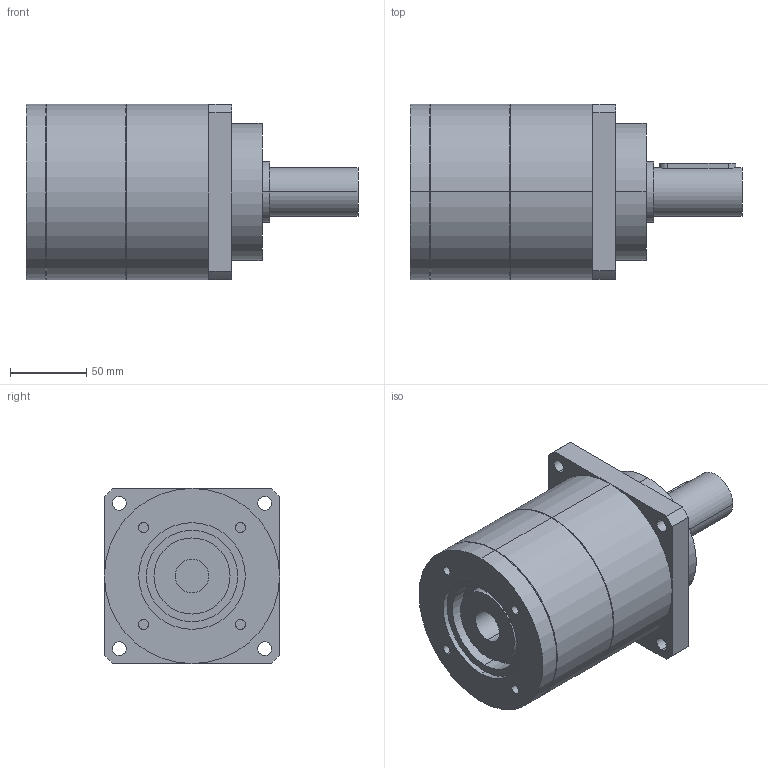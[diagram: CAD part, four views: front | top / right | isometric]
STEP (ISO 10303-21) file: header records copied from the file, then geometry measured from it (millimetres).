
FILE_DESCRIPTION(('CoCreate Modeling STEP Export'),'2;1');
FILE_NAME('GPT120_ig-3-4-5-7-10_32_B5A_22_P17.stp','2015-02-04T16:59:33',(''),(''),'CoCreate Modeling STEP processor for AP214 (Solid Model)','CoCreate Modeling 16.00C 25-Feb-2009 (C) Parametric Technology GmbH','');
FILE_SCHEMA(('AUTOMOTIVE_DESIGN { 1 0 10303 214 1 1 1 1 }'));
Length unit declared in the file: millimetre
Products named in the file (2): GPT120_ig-3-4-5-7-10_32_B5A_22_P17
Assembly tree (1 placements, depth 2):
  GPT120_ig-3-4-5-7-10_32_B5A_22_P17
    GPT120_ig-3-4-5-7-10_32_B5A_22_P17
Bounding box: 218 x 115 x 115 mm (x, y, z)
Volume: 1569413.5 mm3; surface area: 100099.7 mm2
Topology: 1 solids, 1 shells, 75 faces, 188 edges, 129 vertices
Faces by surface type: cylinder 44, plane 27, cone 4
Entity records: 2365 total; most frequent: CARTESIAN_POINT 722, ORIENTED_EDGE 376, DIRECTION 280, EDGE_CURVE 188, VERTEX_POINT 129, AXIS2_PLACEMENT_3D 105, EDGE_LOOP 97, FACE_OUTER_BOUND 75
